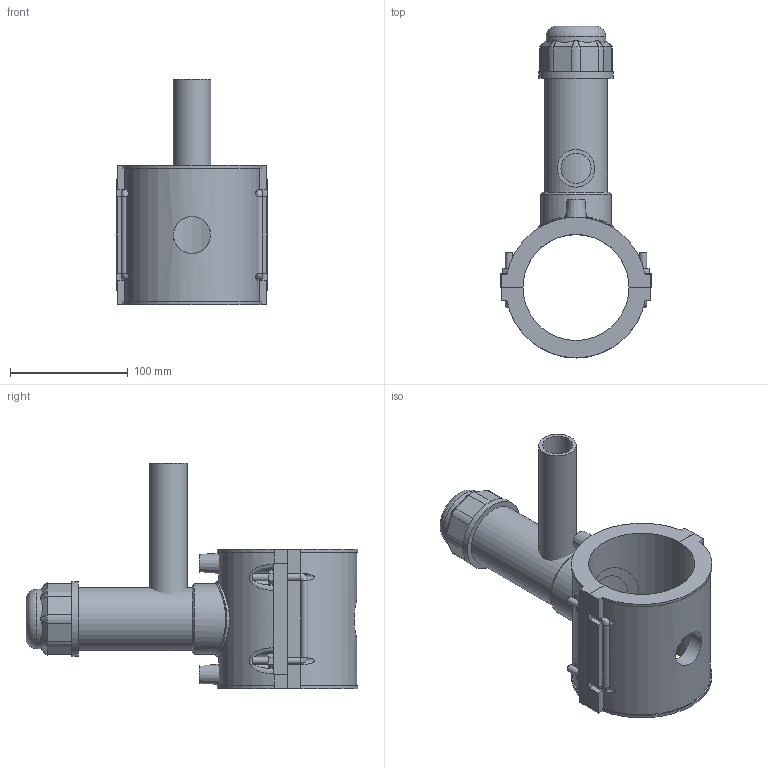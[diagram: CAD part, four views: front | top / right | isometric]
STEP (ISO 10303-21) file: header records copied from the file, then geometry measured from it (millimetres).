
FILE_DESCRIPTION(/* description */ (''),/* implementation_level */ '2;1');
FILE_NAME(/* name */ 'C:\Dropbox\KIMPROJECTS-Inventor 2019\99-16-3568-Processing\ElectroFusion Fittings\4963P4\stp\4963P4090032.stp',/* time_stamp */ '2022-03-17T11:26:55+02:00',/* author */ ('KIM'),/* organization */ (''),/* preprocessor_version */ 'ST-DEVELOPER v17.2',/* originating_system */ 'Autodesk Inventor 2019',/* authorisation */ '');
FILE_SCHEMA (('AUTOMOTIVE_DESIGN { 1 0 10303 214 3 1 1 }'));
Length unit declared in the file: millimetre
Products named in the file (1): 4963P4090032
Bounding box: 128 x 281.67 x 191 mm (x, y, z)
Volume: 821166.4 mm3; surface area: 186642.4 mm2
Topology: 3 solids, 3 shells, 218 faces, 559 edges, 360 vertices
Faces by surface type: plane 125, cylinder 52, bspline 25, cone 15, torus 1
Full cylindrical faces by diameter (mm): 4 x2, 6 x8, 10 x2, 25.6 x1, 31.36 x1, 32 x1, 44.1 x1, 50.4 x1, 53.55 x1, 59.85 x1, 63 x2
Entity records: 8081 total; most frequent: CARTESIAN_POINT 2817, ORIENTED_EDGE 1118, DIRECTION 1023, EDGE_CURVE 559, VERTEX_POINT 360, AXIS2_PLACEMENT_3D 351, LINE 321, VECTOR 321
